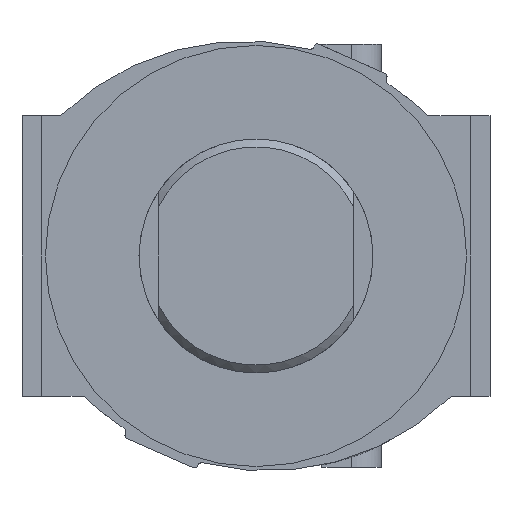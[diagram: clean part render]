
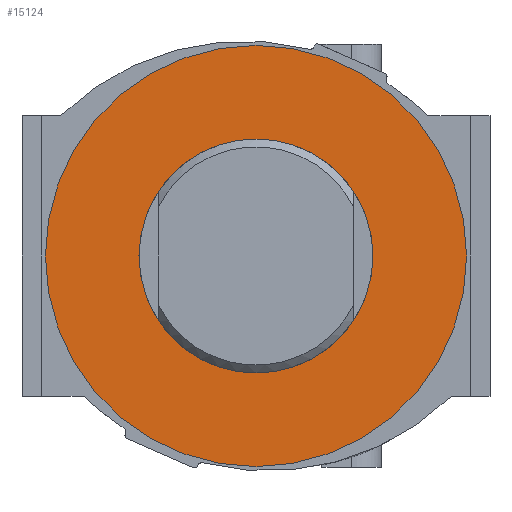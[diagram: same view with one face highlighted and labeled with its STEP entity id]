
A CAD part, front view. The second image highlights one B-rep face of the part: STEP entity #15124.
In plain terms, the highlighted planar face has unit normal (0, -1, 0) as drawn and (0, 1, 0) by its records, which use the part's own axes.
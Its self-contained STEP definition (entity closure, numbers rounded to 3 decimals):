
#612=PLANE('',#16518);
#727=FACE_BOUND('',#2986,.T.);
#2064=FACE_OUTER_BOUND('',#2985,.T.);
#2985=EDGE_LOOP('',(#14013));
#2986=EDGE_LOOP('',(#14014));
#6186=CIRCLE('',#16509,30.);
#6188=CIRCLE('',#16512,54.);
#7601=VERTEX_POINT('',#32174);
#7603=VERTEX_POINT('',#32180);
#9749=EDGE_CURVE('',#7601,#7601,#6186,.T.);
#9752=EDGE_CURVE('',#7603,#7603,#6188,.T.);
#14013=ORIENTED_EDGE('',*,*,#9752,.T.);
#14014=ORIENTED_EDGE('',*,*,#9749,.F.);
#15124=ADVANCED_FACE('',(#2064,#727),#612,.T.);
#16509=AXIS2_PLACEMENT_3D('',#32176,#20343,#20344);
#16512=AXIS2_PLACEMENT_3D('',#32182,#20350,#20351);
#16518=AXIS2_PLACEMENT_3D('',#32196,#20370,#20371);
#20343=DIRECTION('center_axis',(0.,1.,0.));
#20344=DIRECTION('ref_axis',(0.,0.,1.));
#20350=DIRECTION('center_axis',(0.,1.,0.));
#20351=DIRECTION('ref_axis',(0.,0.,1.));
#20370=DIRECTION('center_axis',(0.,1.,0.));
#20371=DIRECTION('ref_axis',(0.,0.,1.));
#32174=CARTESIAN_POINT('',(0.,2.1,-30.));
#32176=CARTESIAN_POINT('Origin',(0.,2.1,0.));
#32180=CARTESIAN_POINT('',(0.,2.1,54.));
#32182=CARTESIAN_POINT('Origin',(0.,2.1,0.));
#32196=CARTESIAN_POINT('Origin',(0.,2.1,0.));
